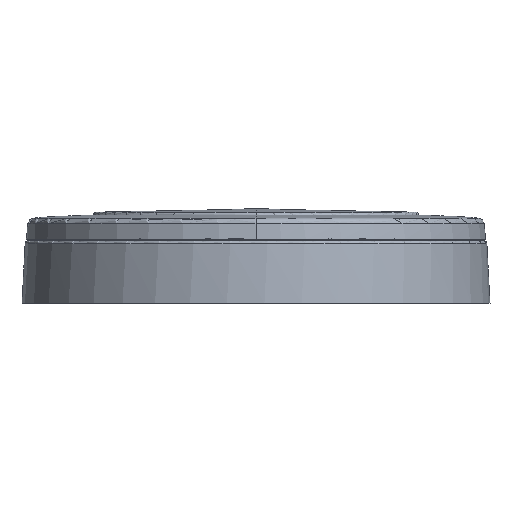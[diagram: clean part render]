
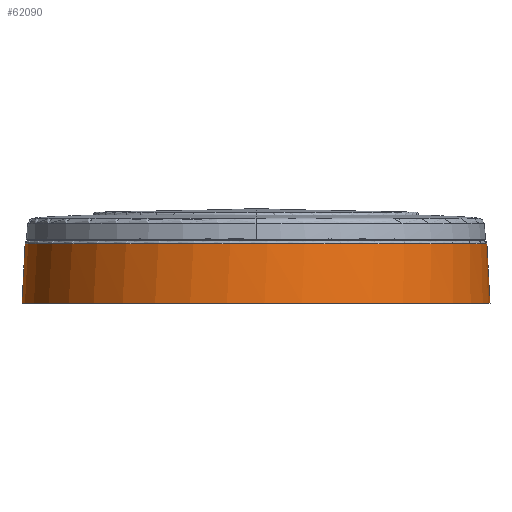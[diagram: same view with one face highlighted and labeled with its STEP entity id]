
A CAD part, left-side view. The second image highlights one B-rep face of the part: STEP entity #62090.
In plain terms, the highlighted conical face has half-angle 3 degrees and reference radius 77.074 mm.
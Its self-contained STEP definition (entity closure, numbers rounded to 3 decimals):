
#55123=VERTEX_POINT('',#55122) ;
#55125=VERTEX_POINT('',#55124) ;
#55178=VERTEX_POINT('',#55177) ;
#55197=VERTEX_POINT('',#55196) ;
#62063=DIRECTION('Axis2P3D Direction',(0.,0.,-1.)) ;
#62064=DIRECTION('Axis2P3D XDirection',(0.,-1.,0.)) ;
#55122=CARTESIAN_POINT('Vertex',(-0.007,-76.009,9.602)) ;
#55124=CARTESIAN_POINT('Vertex',(-0.007,76.09,9.602)) ;
#55175=CARTESIAN_POINT('Control Point',(-0.007,-76.009,9.602)) ;
#55176=CARTESIAN_POINT('Control Point',(-0.007,-77.034,-9.95)) ;
#55177=CARTESIAN_POINT('Vertex',(-0.007,-77.034,-9.95)) ;
#55196=CARTESIAN_POINT('Vertex',(-0.007,77.115,-9.95)) ;
#55200=CARTESIAN_POINT('Control Point',(-0.007,76.09,9.602)) ;
#55201=CARTESIAN_POINT('Control Point',(-0.007,77.115,-9.95)) ;
#62033=CARTESIAN_POINT('Control Point',(-0.007,77.115,-9.95)) ;
#62034=CARTESIAN_POINT('Control Point',(-5.44,77.115,-9.95)) ;
#62035=CARTESIAN_POINT('Control Point',(-15.949,76.,-9.95)) ;
#62036=CARTESIAN_POINT('Control Point',(-30.869,71.216,-9.95)) ;
#62037=CARTESIAN_POINT('Control Point',(-43.816,64.008,-9.95)) ;
#62038=CARTESIAN_POINT('Control Point',(-55.45,54.286,-9.95)) ;
#62039=CARTESIAN_POINT('Control Point',(-64.991,42.479,-9.95)) ;
#62040=CARTESIAN_POINT('Control Point',(-72.159,28.546,-9.95)) ;
#62041=CARTESIAN_POINT('Control Point',(-76.216,14.295,-9.95)) ;
#62042=CARTESIAN_POINT('Control Point',(-77.568,-0.806,-9.95)) ;
#62043=CARTESIAN_POINT('Control Point',(-75.966,-15.901,-9.95)) ;
#62044=CARTESIAN_POINT('Control Point',(-71.183,-30.821,-9.95)) ;
#62045=CARTESIAN_POINT('Control Point',(-63.975,-43.768,-9.95)) ;
#62046=CARTESIAN_POINT('Control Point',(-54.252,-55.402,-9.95)) ;
#62047=CARTESIAN_POINT('Control Point',(-42.446,-64.943,-9.95)) ;
#62048=CARTESIAN_POINT('Control Point',(-28.513,-72.111,-9.95)) ;
#62049=CARTESIAN_POINT('Control Point',(-14.262,-76.169,-9.95)) ;
#62050=CARTESIAN_POINT('Control Point',(-4.593,-77.034,-9.95)) ;
#62051=CARTESIAN_POINT('Control Point',(-0.007,-77.034,-9.95)) ;
#62062=CARTESIAN_POINT('Axis2P3D Location',(-0.007,0.041,-9.95)) ;
#62068=CARTESIAN_POINT('Control Point',(-0.007,76.09,9.602)) ;
#62069=CARTESIAN_POINT('Control Point',(-11.953,76.09,9.602)) ;
#62070=CARTESIAN_POINT('Control Point',(-23.899,73.745,9.602)) ;
#62071=CARTESIAN_POINT('Control Point',(-35.23,69.051,9.602)) ;
#62072=CARTESIAN_POINT('Control Point',(-55.441,55.474,9.602)) ;
#62073=CARTESIAN_POINT('Control Point',(-69.018,35.263,9.602)) ;
#62074=CARTESIAN_POINT('Control Point',(-73.711,23.932,9.602)) ;
#62075=CARTESIAN_POINT('Control Point',(-78.402,0.041,9.602)) ;
#62076=CARTESIAN_POINT('Control Point',(-73.711,-23.851,9.602)) ;
#62077=CARTESIAN_POINT('Control Point',(-69.018,-35.182,9.602)) ;
#62078=CARTESIAN_POINT('Control Point',(-55.441,-55.393,9.602)) ;
#62079=CARTESIAN_POINT('Control Point',(-35.23,-68.97,9.602)) ;
#62080=CARTESIAN_POINT('Control Point',(-23.899,-73.663,9.602)) ;
#62081=CARTESIAN_POINT('Control Point',(-11.953,-76.009,9.602)) ;
#62082=CARTESIAN_POINT('Control Point',(-0.007,-76.009,9.602)) ;
#62065=AXIS2_PLACEMENT_3D('Cone Axis2P3D',#62062,#62063,#62064) ;
#62066=CONICAL_SURFACE('Cone',#62065,77.074,0.052) ;
#55179=EDGE_CURVE('',#55123,#55178,#55174,.T.) ;
#55202=EDGE_CURVE('',#55125,#55197,#55199,.T.) ;
#62052=EDGE_CURVE('',#55197,#55178,#62032,.T.) ;
#62083=EDGE_CURVE('',#55125,#55123,#62067,.T.) ;
#62085=ORIENTED_EDGE('',*,*,#55179,.F.) ;
#62086=ORIENTED_EDGE('',*,*,#62083,.F.) ;
#62087=ORIENTED_EDGE('',*,*,#55202,.T.) ;
#62088=ORIENTED_EDGE('',*,*,#62052,.T.) ;
#62084=EDGE_LOOP('',(#62085,#62086,#62087,#62088)) ;
#62090=ADVANCED_FACE('980 638-00_004;1-Round Spacer.1\\Revolve (2)',(#62089),#62066,.T.) ;
#55174=B_SPLINE_CURVE_WITH_KNOTS('',1,(#55175,#55176),.UNSPECIFIED.,.F.,.U.,(2,2),(0.,1.),.UNIFORM_KNOTS.) ;
#55199=B_SPLINE_CURVE_WITH_KNOTS('',1,(#55200,#55201),.UNSPECIFIED.,.F.,.U.,(2,2),(0.,1.),.UNIFORM_KNOTS.) ;
#62067=B_SPLINE_CURVE_WITH_KNOTS('',5,(#62068,#62069,#62070,#62071,#62072,#62073,#62074,#62075,#62076,#62077,#62078,#62079,#62080,#62081,#62082),.UNSPECIFIED.,.F.,.U.,(6,3,3,3,6),(0.,0.25,0.5,0.75,1.),.UNIFORM_KNOTS.) ;
#62089=FACE_OUTER_BOUND('',#62084,.T.) ;
#62032=(BOUNDED_CURVE()B_SPLINE_CURVE(3,(#62033,#62034,#62035,#62036,#62037,#62038,#62039,#62040,#62041,#62042,#62043,#62044,#62045,#62046,#62047,#62048,#62049,#62050,#62051),.UNSPECIFIED.,.F.,.U.)B_SPLINE_CURVE_WITH_KNOTS((4,1,1,1,1,1,1,1,1,1,1,1,1,1,1,1,4),(0.,16.373,31.675,46.994,60.816,77.189,92.49,107.81,121.632,138.005,153.306,168.625,182.447,198.821,214.122,229.441,243.263),.UNIFORM_KNOTS.)CURVE()GEOMETRIC_REPRESENTATION_ITEM()RATIONAL_B_SPLINE_CURVE((1.,1.,1.,1.,1.,1.,1.,1.,1.,1.,1.,1.,1.,1.,1.,1.,1.,1.,1.))REPRESENTATION_ITEM('')) ;
